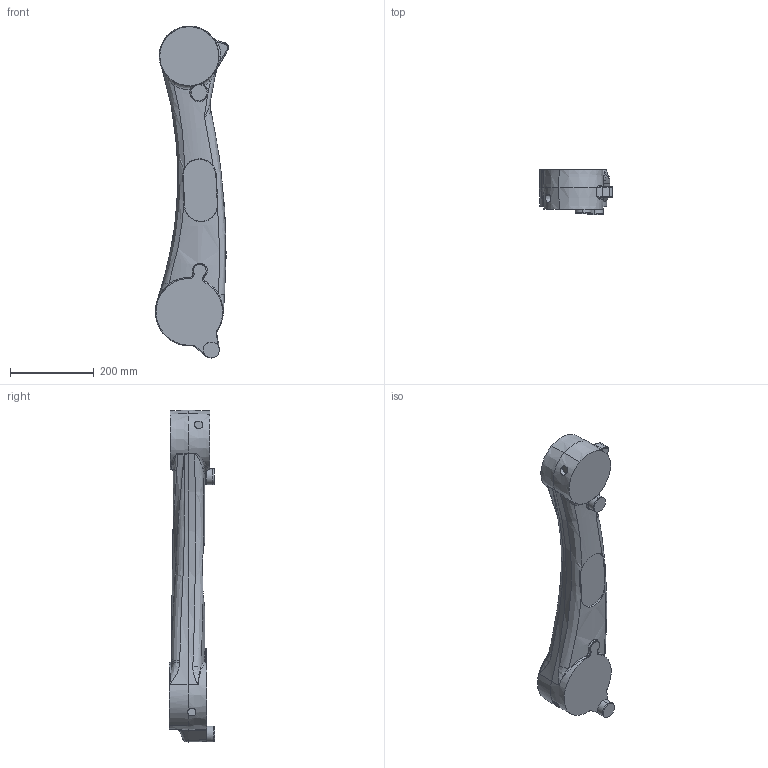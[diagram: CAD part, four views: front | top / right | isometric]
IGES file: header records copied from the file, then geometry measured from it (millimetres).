
Start section: START RECORD GO HERE.
Global section: file name: 30_UMMZ12_A2_ARM_ASSY.01igs.igs; native system: DASSAULT SYSTEMES CATIA Version 5-6 Release 2012 - www.3ds.com; preprocessor: V5-6R2012_5.22.4.0.11-16-2012.22.00; author: RBT00090; organization: NACHI-JP; date: 20170720.145357; units: millimetre
Bounding box: 174.95 x 109 x 792.05 mm (x, y, z)
Volume: 7282596.9 mm3; surface area: 318982.7 mm2
Topology: 1 solids, 1 shells, 187 faces, 474 edges, 278 vertices
Faces by surface type: bspline 88, revolution 69, plane 30
